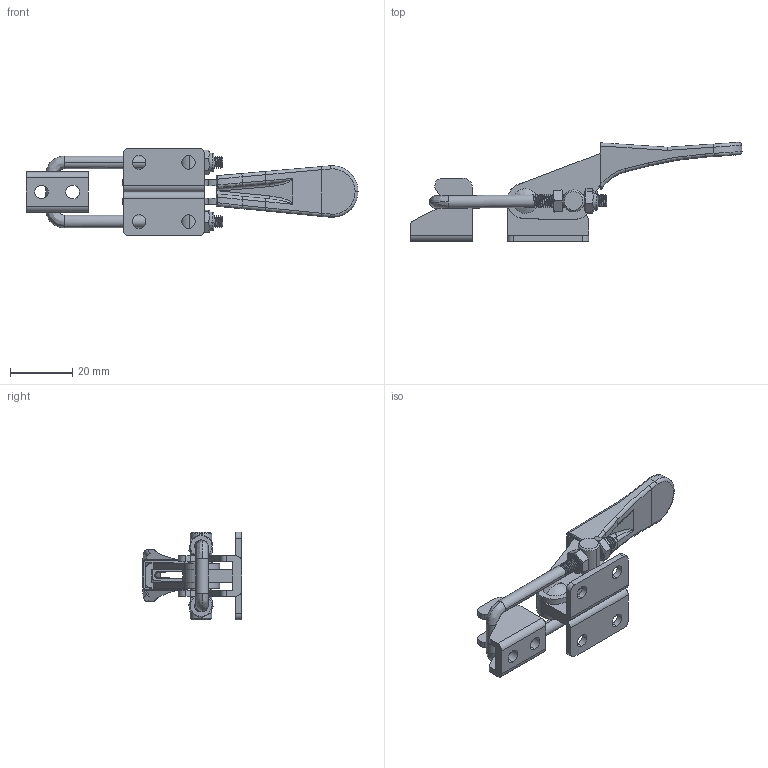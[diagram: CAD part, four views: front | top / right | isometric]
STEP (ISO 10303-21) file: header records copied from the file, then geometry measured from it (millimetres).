
FILE_DESCRIPTION (( 'STEP AP214' ), '1' );
FILE_NAME ('DST-40323.STEP', '2022-04-28T12:18:10', ( '' ), ( '' ), 'SwSTEP 2.0', 'SolidWorks 2015', '' );
FILE_SCHEMA (( 'AUTOMOTIVE_DESIGN' ));
Length unit declared in the file: millimetre
Products named in the file (11): DST-40323-05 ROTOR; DST-M4 Nut; DST-40323-03-01; DST-M4 LOCK Nut; DST-40323-06; DST-40323-04 PERMANENT SEAT; DST-40323-02 HOOK; DST-40323-03-02; DST-40323-01 BASE; DST-40323-03 HANDLE; DST-40323
Assembly tree (12 placements, depth 3):
  DST-40323
    DST-40323-01 BASE
    DST-40323-03 HANDLE
      DST-40323-03-01
      DST-40323-03-02
    DST-40323-05 ROTOR
    DST-40323-02 HOOK
    DST-40323-06
    DST-M4 LOCK Nut  x2
    DST-M4 Nut  x2
    DST-40323-04 PERMANENT SEAT
Bounding box: 106.66 x 31.86 x 28.2 mm (x, y, z)
Volume: 11467.5 mm3; surface area: 15036.2 mm2
Topology: 11 solids, 11 shells, 485 faces, 1311 edges, 846 vertices
Faces by surface type: cylinder 281, plane 109, bspline 48, cone 47
Entity records: 22966 total; most frequent: CARTESIAN_POINT 13078, ORIENTED_EDGE 2296, DIRECTION 1684, EDGE_CURVE 1148, VERTEX_POINT 745, AXIS2_PLACEMENT_3D 612, VECTOR 460, LINE 460
